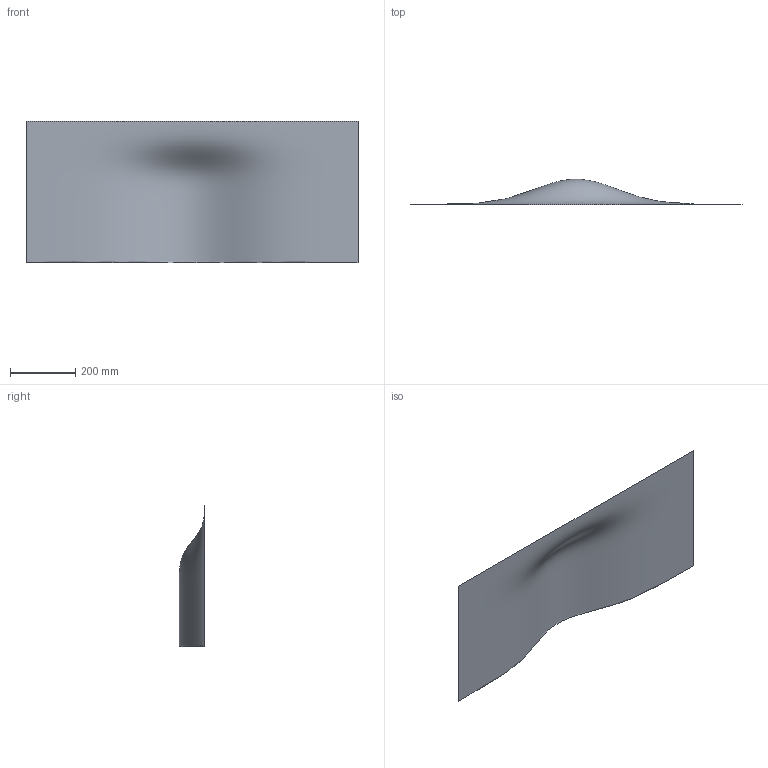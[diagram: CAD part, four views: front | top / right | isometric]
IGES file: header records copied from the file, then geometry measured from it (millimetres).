
Start section: Generated in MADCAP
Global section: file name: SURF.IGS; native system: MADCAP VERSION 7.00; preprocessor: 4.0; date: 920814.234831; units: inch
Bounding box: 1016 x 77.72 x 431.8 mm (x, y, z)
Surface area: 449659.7 mm2 (no closed solid volume)
Topology: 0 solids, 0 shells, 1 faces, 4 edges, 4 vertices
Faces by surface type: bspline 1
